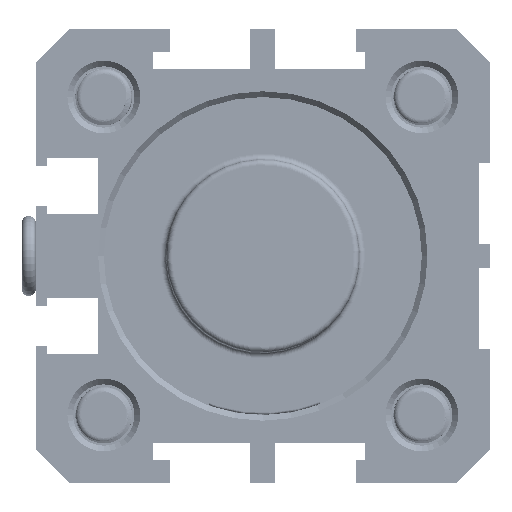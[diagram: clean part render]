
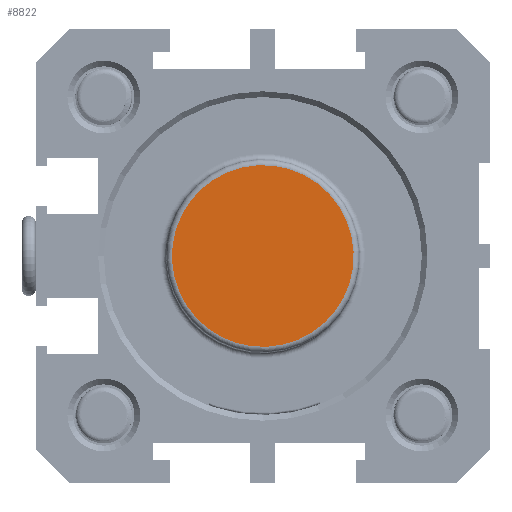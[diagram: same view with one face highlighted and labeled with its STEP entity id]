
A CAD part, front view. The second image highlights one B-rep face of the part: STEP entity #8822.
In plain terms, the highlighted planar face has unit normal (0, -1, 0) as drawn and (0, 1, 0) by its records, which use the part's own axes.
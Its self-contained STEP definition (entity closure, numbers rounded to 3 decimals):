
#555=PLANE('',#9666);
#829=FACE_OUTER_BOUND('',#1317,.T.);
#1317=EDGE_LOOP('',(#6020,#6021));
#3034=CIRCLE('',#9635,8.);
#3035=CIRCLE('',#9636,8.);
#3617=VERTEX_POINT('',#13565);
#3618=VERTEX_POINT('',#13566);
#4585=EDGE_CURVE('',#3617,#3618,#3034,.T.);
#4586=EDGE_CURVE('',#3618,#3617,#3035,.T.);
#6020=ORIENTED_EDGE('',*,*,#4585,.T.);
#6021=ORIENTED_EDGE('',*,*,#4586,.T.);
#8822=ADVANCED_FACE('',(#829),#555,.T.);
#9635=AXIS2_PLACEMENT_3D('',#13567,#10802,#10803);
#9636=AXIS2_PLACEMENT_3D('',#13568,#10804,#10805);
#9666=AXIS2_PLACEMENT_3D('',#13616,#10866,#10867);
#10802=DIRECTION('center_axis',(0.,1.,0.));
#10803=DIRECTION('ref_axis',(0.,0.,1.));
#10804=DIRECTION('center_axis',(0.,1.,0.));
#10805=DIRECTION('ref_axis',(0.,0.,1.));
#10866=DIRECTION('center_axis',(0.,1.,0.));
#10867=DIRECTION('ref_axis',(0.,0.,1.));
#13565=CARTESIAN_POINT('',(-2297.727,5223.003,8.));
#13566=CARTESIAN_POINT('',(-2297.727,5223.003,-8.));
#13567=CARTESIAN_POINT('Origin',(-2297.727,5223.003,0.));
#13568=CARTESIAN_POINT('Origin',(-2297.727,5223.003,0.));
#13616=CARTESIAN_POINT('Origin',(-2292.445,5223.003,0.));
